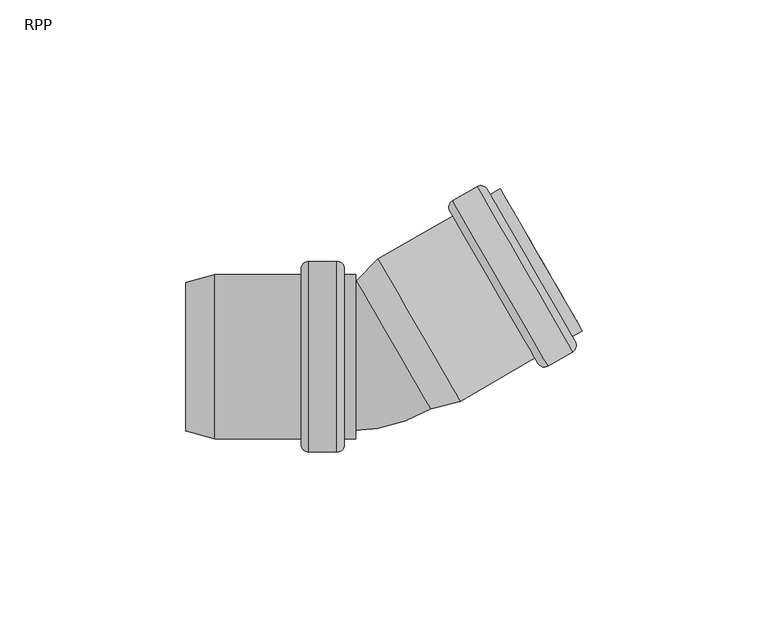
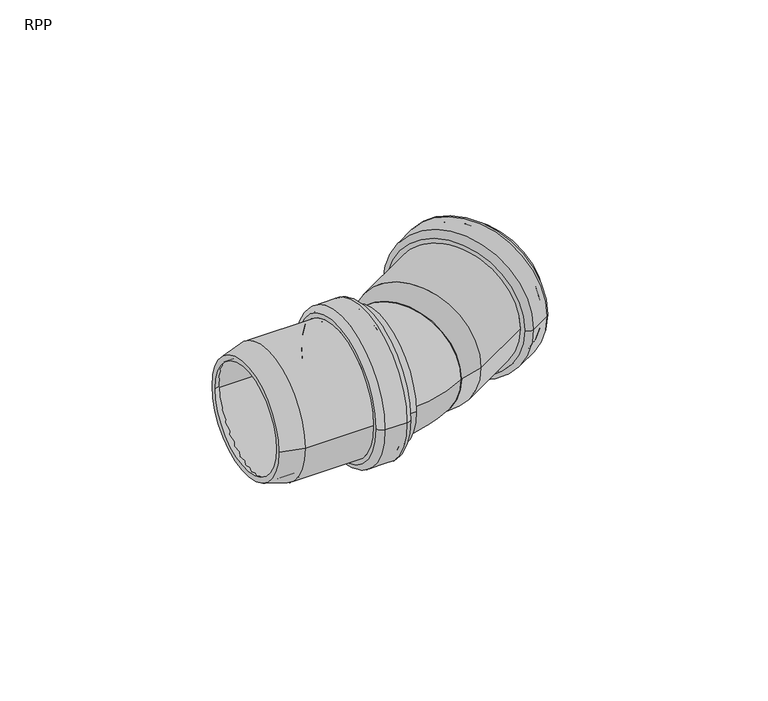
"""IFC4 building model written with IfcOpenShell, lengths in millimetres: pipe fitting geometry, RAUPIANO PLUS Bend : RPP."""

from ifc_helpers import new_model, si_unit, point, frame, origin, place, context, project, spatial, polyline, circle_curve, ellipse_curve, trimmed, source, transform, mapped, element, save
from ifc_brep_helpers import plane_surface, cylinder_surface, revolved_surface, advanced_brep


def rpp_faf4a86c(model_context):
    return source(origin(), model_context, "Body", "AdvancedBrep", [
        advanced_brep(
        [(-17.5307806, -20.3, 0.0), (-17.5307806, 20.3, 0.0), (-42.3564994, 20.3, 0.0), (-42.3564994, -20.3, 0.0), (-17.0307806, -23.9, 0.0), (-17.0307806, 23.9, 0.0), (-17.5307806, 23.4, 0.0), (-17.5307806, -23.4, 0.0), (-10.0307806, -23.9, 0.0), (-10.0307806, 23.9, 0.0), (-9.5307806, -23.4, 0.0), (-9.5307806, 23.4, 0.0), (-4.6307806, -20.3, 0.0), (-4.6307806, 20.3, 0.0), (-9.5307806, 20.3, 0.0), (-9.5307806, -20.3, 0.0), (-7.7307806, -22.1, 0.0), (-7.7307806, 22.1, 0.0), (-4.6307806, 22.1, 0.0), (-4.6307806, -22.1, 0.0), (-9.7307806, -25.7, 0.0), (-9.7307806, 25.7, 0.0), (-7.7307806, 23.7, 0.0), (-7.7307806, -23.7, 0.0), (-17.3307806, -25.7, 0.0), (-17.3307806, 25.7, 0.0), (-19.3307806, -23.7, 0.0), (-19.3307806, 23.7, 0.0), (-42.5934739, -22.1, 0.0), (-42.5934739, 22.1, 0.0), (-19.3307806, 22.1, 0.0), (-19.3307806, -22.1, 0.0), (-50.4307806, -20.0, 0.0), (-50.4307806, 20.0, 0.0), (-50.4307806, 18.1365029, 0.0), (-50.4307806, -18.1365029, 0.0)],
        [
            (0, 1, circle_curve(frame((-17.5307806, 0.0, 0.0), z_axis=(1.0, 0.0, 0.0), x_axis=(0.0, 1.0, 0.0)), 20.3)),
            (1, 2),
            (2, 3, circle_curve(frame((-42.3564994, 0.0, 0.0), z_axis=(-1.0, 0.0, 0.0), x_axis=(0.0, 1.0, 0.0)), 20.3)),
            (3, 0),
            (4, 5, circle_curve(frame((-17.0307806, 0.0, 0.0), z_axis=(1.0, 0.0, 0.0), x_axis=(0.0, 1.0, 0.0)), 23.9)),
            (5, 6, circle_curve(frame((-17.0307806, 23.4, 0.0), z_axis=(0.0, 0.0, 1.0), x_axis=(0.0, -1.0, 0.0)), 0.5)),
            (6, 7, circle_curve(frame((-17.5307806, 0.0, 0.0), z_axis=(-1.0, 0.0, 0.0), x_axis=(0.0, 1.0, 0.0)), 23.4)),
            (7, 4, circle_curve(frame((-17.0307806, -23.4, 0.0), z_axis=(0.0, 0.0, 1.0), x_axis=(0.0, 1.0, 0.0)), 0.5)),
            (8, 9, circle_curve(frame((-10.0307806, 0.0, 0.0), z_axis=(1.0, 0.0, 0.0), x_axis=(0.0, 1.0, 0.0)), 23.9)),
            (9, 5),
            (4, 8),
            (10, 11, circle_curve(frame((-9.5307806, 0.0, 0.0), z_axis=(1.0, 0.0, 0.0), x_axis=(0.0, 1.0, 0.0)), 23.4)),
            (11, 9, circle_curve(frame((-10.0307806, 23.4, 0.0), z_axis=(0.0, 0.0, 1.0), x_axis=(0.0, -1.0, 0.0)), 0.5)),
            (8, 10, circle_curve(frame((-10.0307806, -23.4, 0.0), z_axis=(0.0, 0.0, 1.0), x_axis=(0.0, 1.0, 0.0)), 0.5)),
            (12, 13, circle_curve(frame((-4.6307806, 0.0, 0.0), z_axis=(1.0, 0.0, 0.0), x_axis=(0.0, 1.0, 0.0)), 20.3)),
            (13, 14),
            (14, 15, circle_curve(frame((-9.5307806, 0.0, 0.0), z_axis=(-1.0, 0.0, 0.0), x_axis=(0.0, 1.0, 0.0)), 20.3)),
            (15, 12),
            (16, 17, circle_curve(frame((-7.7307806, 0.0, 0.0), z_axis=(1.0, 0.0, 0.0), x_axis=(0.0, 1.0, 0.0)), 22.1)),
            (17, 18),
            (18, 19, circle_curve(frame((-4.6307806, 0.0, 0.0), z_axis=(-1.0, 0.0, 0.0), x_axis=(0.0, 1.0, 0.0)), 22.1)),
            (19, 16),
            (20, 21, circle_curve(frame((-9.7307806, 0.0, 0.0), z_axis=(1.0, 0.0, 0.0), x_axis=(0.0, 1.0, 0.0)), 25.7)),
            (21, 22, circle_curve(frame((-9.7307806, 23.7, 0.0), z_axis=(0.0, 0.0, -1.0), x_axis=(0.0, -1.0, 0.0)), 2.0)),
            (22, 23, circle_curve(frame((-7.7307806, 0.0, 0.0), z_axis=(-1.0, 0.0, 0.0), x_axis=(0.0, 1.0, 0.0)), 23.7)),
            (23, 20, circle_curve(frame((-9.7307806, -23.7, 0.0), z_axis=(0.0, 0.0, -1.0), x_axis=(0.0, 1.0, 0.0)), 2.0)),
            (24, 25, circle_curve(frame((-17.3307806, 0.0, 0.0), z_axis=(1.0, 0.0, 0.0), x_axis=(0.0, 1.0, 0.0)), 25.7)),
            (25, 21),
            (20, 24),
            (26, 27, circle_curve(frame((-19.3307806, 0.0, 0.0), z_axis=(1.0, 0.0, 0.0), x_axis=(0.0, 1.0, 0.0)), 23.7)),
            (27, 25, circle_curve(frame((-17.3307806, 23.7, 0.0), z_axis=(0.0, 0.0, -1.0), x_axis=(0.0, -1.0, 0.0)), 2.0)),
            (24, 26, circle_curve(frame((-17.3307806, -23.7, 0.0), z_axis=(0.0, 0.0, -1.0), x_axis=(0.0, 1.0, 0.0)), 2.0)),
            (28, 29, circle_curve(frame((-42.5934739, 0.0, 0.0), z_axis=(1.0, 0.0, 0.0), x_axis=(0.0, 1.0, 0.0)), 22.1)),
            (29, 30),
            (30, 31, circle_curve(frame((-19.3307806, 0.0, 0.0), z_axis=(-1.0, 0.0, 0.0), x_axis=(0.0, 1.0, 0.0)), 22.1)),
            (31, 28),
            (32, 33, circle_curve(frame((-50.4307806, 0.0, 0.0), z_axis=(1.0, 0.0, 0.0), x_axis=(0.0, 1.0, 0.0)), 20.0)),
            (33, 29),
            (28, 32),
            (2, 34),
            (34, 35, circle_curve(frame((-50.4307806, 0.0, 0.0), z_axis=(-1.0, 0.0, 0.0), x_axis=(0.0, 1.0, 0.0)), 18.1365029)),
            (35, 3),
            (1, 0, circle_curve(frame((-17.5307806, 0.0, 0.0), z_axis=(1.0, 0.0, 0.0), x_axis=(0.0, -1.0, 0.0)), 20.3)),
            (3, 2, circle_curve(frame((-42.3564994, 0.0, 0.0), z_axis=(-1.0, 0.0, 0.0), x_axis=(0.0, -1.0, 0.0)), 20.3)),
            (6, 7, circle_curve(frame((-17.5307806, 0.0, 0.0), z_axis=(1.0, 0.0, 0.0), x_axis=(0.0, -1.0, 0.0)), 23.4)),
            (5, 4, circle_curve(frame((-17.0307806, 0.0, 0.0), z_axis=(1.0, 0.0, 0.0), x_axis=(0.0, -1.0, 0.0)), 23.9)),
            (9, 8, circle_curve(frame((-10.0307806, 0.0, 0.0), z_axis=(1.0, 0.0, 0.0), x_axis=(0.0, -1.0, 0.0)), 23.9)),
            (11, 10, circle_curve(frame((-9.5307806, 0.0, 0.0), z_axis=(1.0, 0.0, 0.0), x_axis=(0.0, -1.0, 0.0)), 23.4)),
            (14, 15, circle_curve(frame((-9.5307806, 0.0, 0.0), z_axis=(1.0, 0.0, 0.0), x_axis=(0.0, -1.0, 0.0)), 20.3)),
            (13, 12, circle_curve(frame((-4.6307806, 0.0, 0.0), z_axis=(1.0, 0.0, 0.0), x_axis=(0.0, -1.0, 0.0)), 20.3)),
            (18, 19, circle_curve(frame((-4.6307806, 0.0, 0.0), z_axis=(1.0, 0.0, 0.0), x_axis=(0.0, -1.0, 0.0)), 22.1)),
            (17, 16, circle_curve(frame((-7.7307806, 0.0, 0.0), z_axis=(1.0, 0.0, 0.0), x_axis=(0.0, -1.0, 0.0)), 22.1)),
            (22, 23, circle_curve(frame((-7.7307806, 0.0, 0.0), z_axis=(1.0, 0.0, 0.0), x_axis=(0.0, -1.0, 0.0)), 23.7)),
            (21, 20, circle_curve(frame((-9.7307806, 0.0, 0.0), z_axis=(1.0, 0.0, 0.0), x_axis=(0.0, -1.0, 0.0)), 25.7)),
            (25, 24, circle_curve(frame((-17.3307806, 0.0, 0.0), z_axis=(1.0, 0.0, 0.0), x_axis=(0.0, -1.0, 0.0)), 25.7)),
            (27, 26, circle_curve(frame((-19.3307806, 0.0, 0.0), z_axis=(1.0, 0.0, 0.0), x_axis=(0.0, -1.0, 0.0)), 23.7)),
            (30, 31, circle_curve(frame((-19.3307806, 0.0, 0.0), z_axis=(1.0, 0.0, 0.0), x_axis=(0.0, -1.0, 0.0)), 22.1)),
            (29, 28, circle_curve(frame((-42.5934739, 0.0, 0.0), z_axis=(1.0, 0.0, 0.0), x_axis=(0.0, -1.0, 0.0)), 22.1)),
            (33, 32, circle_curve(frame((-50.4307806, 0.0, 0.0), z_axis=(1.0, 0.0, 0.0), x_axis=(0.0, -1.0, 0.0)), 20.0)),
            (34, 35, circle_curve(frame((-50.4307806, 0.0, 0.0), z_axis=(1.0, 0.0, 0.0), x_axis=(0.0, -1.0, 0.0)), 18.1365029)),
        ],
        [
            revolved_surface(polyline([(-42.3564994, 20.3, 0.0), (-17.5307806, 20.3, 0.0)]), (-50.4307806, 0.0, 0.0), (-1.0, 0.0, 0.0)),
            revolved_surface(trimmed(ellipse_curve(frame((-17.0307806, 23.4, 0.0), z_axis=(0.0, 0.0, -1.0), x_axis=(0.0, -1.0, 0.0)), 0.5, 0.5), [point((-17.5307806, 23.4, 0.0))], [point((-17.0307806, 23.9, 0.0))], True, "CARTESIAN"), (-50.4307806, 0.0, 0.0), (-1.0, 0.0, 0.0)),
            revolved_surface(polyline([(-17.0307806, 23.9, 0.0), (-10.0307806, 23.9, 0.0)]), (-50.4307806, 0.0, 0.0), (-1.0, 0.0, 0.0)),
            revolved_surface(trimmed(ellipse_curve(frame((-10.0307806, 23.4, 0.0), z_axis=(0.0, 0.0, -1.0), x_axis=(0.0, -1.0, 0.0)), 0.5, 0.5), [point((-10.0307806, 23.9, 0.0))], [point((-9.5307806, 23.4, 0.0))], True, "CARTESIAN"), (-50.4307806, 0.0, 0.0), (-1.0, 0.0, 0.0)),
            revolved_surface(polyline([(-9.5307806, 20.3, 0.0), (-4.630780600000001, 20.3, 0.0)]), (-50.4307806, 0.0, 0.0), (-1.0, 0.0, 0.0)),
            cylinder_surface(frame((-50.4307806, 0.0, 0.0), z_axis=(-1.0, 0.0, 0.0), x_axis=(0.0, 1.0, 0.0)), 22.1),
            revolved_surface(trimmed(ellipse_curve(frame((-9.7307806, 23.7, 0.0), z_axis=(0.0, 0.0, 1.0), x_axis=(0.0, -1.0, 0.0)), 2.0, 2.0), [point((-7.7307806, 23.7, 0.0))], [point((-9.7307806, 25.7, 0.0))], True, "CARTESIAN"), (-50.4307806, 0.0, 0.0), (-1.0, 0.0, 0.0)),
            cylinder_surface(frame((-50.4307806, 0.0, 0.0), z_axis=(-1.0, 0.0, 0.0), x_axis=(0.0, 1.0, 0.0)), 25.7),
            revolved_surface(trimmed(ellipse_curve(frame((-17.3307806, 23.7, 0.0), z_axis=(0.0, 0.0, 1.0), x_axis=(0.0, -1.0, 0.0)), 2.0, 2.0), [point((-17.3307806, 25.7, 0.0))], [point((-19.3307806, 23.7, 0.0))], True, "CARTESIAN"), (-50.4307806, 0.0, 0.0), (-1.0, 0.0, 0.0)),
            revolved_surface(polyline([(-42.5934739, 22.1, 0.0), (-50.4307806, 20.0, 0.0)]), (-50.4307806, 0.0, 0.0), (-1.0, 0.0, 0.0)),
            revolved_surface(polyline([(-50.4307806, 18.1365029, 0.0), (-42.3564994, 20.3, 0.0)]), (-50.4307806, 0.0, 0.0), (-1.0, 0.0, 0.0)),
            revolved_surface(polyline([(-42.3564994, -20.3, 0.0), (-17.5307806, -20.3, 0.0)]), (-50.4307806, 0.0, 0.0), (-1.0, 0.0, 0.0)),
            plane_surface(frame((-17.5307806, 0.0, 0.0), z_axis=(1.0, 0.0, 0.0), x_axis=(0.0, -1.0, 0.0))),
            revolved_surface(trimmed(ellipse_curve(frame((-17.0307806, -23.4, 0.0), z_axis=(0.0, 0.0, 1.0), x_axis=(0.0, 1.0, 0.0)), 0.5, 0.5), [point((-17.5307806, -23.4, 0.0))], [point((-17.0307806, -23.9, 0.0))], True, "CARTESIAN"), (-50.4307806, 0.0, 0.0), (-1.0, 0.0, 0.0)),
            revolved_surface(polyline([(-17.0307806, -23.9, 0.0), (-10.0307806, -23.9, 0.0)]), (-50.4307806, 0.0, 0.0), (-1.0, 0.0, 0.0)),
            revolved_surface(trimmed(ellipse_curve(frame((-10.0307806, -23.4, 0.0), z_axis=(0.0, 0.0, 1.0), x_axis=(0.0, 1.0, 0.0)), 0.5, 0.5), [point((-10.0307806, -23.9, 0.0))], [point((-9.5307806, -23.4, 0.0))], True, "CARTESIAN"), (-50.4307806, 0.0, 0.0), (-1.0, 0.0, 0.0)),
            plane_surface(frame((-9.5307806, 0.0, 0.0), z_axis=(-1.0, 0.0, 0.0), x_axis=(0.0, -1.0, 0.0))),
            revolved_surface(polyline([(-9.5307806, -20.3, 0.0), (-4.630780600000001, -20.3, 0.0)]), (-50.4307806, 0.0, 0.0), (-1.0, 0.0, 0.0)),
            plane_surface(frame((-4.6307806, 0.0, 0.0), z_axis=(1.0, 0.0, 0.0), x_axis=(0.0, -1.0, 0.0))),
            cylinder_surface(frame((-50.4307806, 0.0, 0.0), z_axis=(-1.0, 0.0, 0.0), x_axis=(0.0, -1.0, 0.0)), 22.1),
            plane_surface(frame((-7.7307806, 0.0, 0.0), z_axis=(1.0, 0.0, 0.0), x_axis=(0.0, -1.0, 0.0))),
            revolved_surface(trimmed(ellipse_curve(frame((-9.7307806, -23.7, 0.0), z_axis=(0.0, 0.0, -1.0), x_axis=(0.0, 1.0, 0.0)), 2.0, 2.0), [point((-7.7307806, -23.7, 0.0))], [point((-9.7307806, -25.7, 0.0))], True, "CARTESIAN"), (-50.4307806, 0.0, 0.0), (-1.0, 0.0, 0.0)),
            cylinder_surface(frame((-50.4307806, 0.0, 0.0), z_axis=(-1.0, 0.0, 0.0), x_axis=(0.0, -1.0, 0.0)), 25.7),
            revolved_surface(trimmed(ellipse_curve(frame((-17.3307806, -23.7, 0.0), z_axis=(0.0, 0.0, -1.0), x_axis=(0.0, 1.0, 0.0)), 2.0, 2.0), [point((-17.3307806, -25.7, 0.0))], [point((-19.3307806, -23.7, 0.0))], True, "CARTESIAN"), (-50.4307806, 0.0, 0.0), (-1.0, 0.0, 0.0)),
            plane_surface(frame((-19.3307806, 0.0, 0.0), z_axis=(-1.0, 0.0, 0.0), x_axis=(0.0, -1.0, 0.0))),
            revolved_surface(polyline([(-42.5934739, -22.1, 0.0), (-50.4307806, -20.0, 0.0)]), (-50.4307806, 0.0, 0.0), (-1.0, 0.0, 0.0)),
            plane_surface(frame((-50.4307806, 0.0, 0.0), z_axis=(-1.0, 0.0, 0.0), x_axis=(0.0, -1.0, 0.0))),
            revolved_surface(polyline([(-50.4307806, -18.1365029, 0.0), (-42.3564994, -20.3, 0.0)]), (-50.4307806, 0.0, 0.0), (-1.0, 0.0, 0.0)),
        ],
        [
            (0, [[1, 2, 3, 4]]),
            (1, [[5, 6, 7, 8]]),
            (2, [[9, 10, -5, 11]]),
            (3, [[12, 13, -9, 14]]),
            (4, [[15, 16, 17, 18]]),
            (5, [[19, 20, 21, 22]]),
            (6, [[23, 24, 25, 26]]),
            (7, [[27, 28, -23, 29]]),
            (8, [[30, 31, -27, 32]]),
            (5, [[33, 34, 35, 36]]),
            (9, [[37, 38, -33, 39]]),
            (10, [[-3, 40, 41, 42]]),
            (11, [[43, -4, 44, -2]]),
            (12, [[45, -7], [-43, -1]]),
            (13, [[46, -8, -45, -6]]),
            (14, [[47, -11, -46, -10]]),
            (15, [[48, -14, -47, -13]]),
            (16, [[-48, -12], [49, -17]]),
            (17, [[50, -18, -49, -16]]),
            (18, [[51, -21], [-50, -15]]),
            (19, [[52, -22, -51, -20]]),
            (20, [[53, -25], [-52, -19]]),
            (21, [[54, -26, -53, -24]]),
            (22, [[55, -29, -54, -28]]),
            (23, [[56, -32, -55, -31]]),
            (24, [[-56, -30], [57, -35]]),
            (19, [[58, -36, -57, -34]]),
            (25, [[59, -39, -58, -38]]),
            (26, [[-59, -37], [60, -41]]),
            (27, [[-44, -42, -60, -40]]),
        ],
    ),
        advanced_brep(
        [(14.6374708, -12.4912819, 0.0), (-3.4990321, 18.9220625, 0.0), (2.411752, 24.8328466, 0.0), (22.711752, -10.3277848, 0.0), (23.4065261, -12.0051178, 0.0), (1.3065261, 26.2732051, 0.0), (-4.4307806, 20.5358984, 0.0), (15.5692194, -14.1051178, 0.0), (43.5526094, -0.3737711, 0.0), (21.4526094, 37.9045517, 0.0), (53.6664533, 1.3085374, 0.0), (27.9664533, 45.8222432, 0.0), (21.3846602, 42.0222432, 0.0), (47.0846602, -2.4914626, 0.0), (56.2831829, 6.9762289, 0.0), (34.1831829, 45.2545517, 0.0), (31.4985041, 43.7045517, 0.0), (53.5985041, 5.4262289, 0.0), (51.1396584, 6.0850746, 0.0), (30.8396584, 41.245706, 0.0), (35.0831829, 43.695706, 0.0), (55.3831829, 8.5350746, 0.0), (46.4444679, -0.7826168, 0.0), (22.5444679, 40.6133975, 0.0), (28.6066457, 44.1133975, 0.0), (52.5066457, 2.7173832, 0.0), (23.9114552, 37.245706, 0.0), (44.2114552, 2.0850746, 0.0), (20.6526094, 39.2901924, 0.0), (44.3526094, -1.7594118, 0.0), (54.3985041, 4.0405882, 0.0), (30.6985041, 45.0901924, 0.0), (29.2896584, 43.9303848, 0.0), (52.6896584, 3.4003959, 0.0), (45.7614552, -0.5996041, 0.0), (22.3614552, 39.9303848, 0.0)],
        [
            (0, 1, circle_curve(frame((5.5692194, 3.2153903, 0.0), z_axis=(-0.8660254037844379, -0.5000000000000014, 0.0), x_axis=(-0.5000000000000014, 0.8660254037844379, 0.0)), 18.1365029)),
            (1, 2),
            (2, 3, circle_curve(frame((12.561752, 7.2525309, 0.0), z_axis=(0.8660254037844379, 0.5000000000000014, 0.0), x_axis=(-0.5000000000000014, 0.8660254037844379, 0.0)), 20.3)),
            (3, 0),
            (4, 5, circle_curve(frame((12.3565261, 7.1340437, 0.0), z_axis=(-0.8660254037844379, -0.5000000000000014, 0.0), x_axis=(-0.5000000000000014, 0.8660254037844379, 0.0)), 22.1)),
            (5, 6),
            (6, 7, circle_curve(frame((5.5692194, 3.2153903, 0.0), z_axis=(0.8660254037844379, 0.5000000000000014, 0.0), x_axis=(-0.5000000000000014, 0.8660254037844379, 0.0)), 20.0)),
            (7, 4),
            (8, 9, circle_curve(frame((32.5026094, 18.7653903, 0.0), z_axis=(-0.8660254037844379, -0.5000000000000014, 0.0), x_axis=(-0.5000000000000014, 0.8660254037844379, 0.0)), 22.1)),
            (9, 5),
            (4, 8),
            (10, 11, circle_curve(frame((40.8164533, 23.5653903, 0.0), z_axis=(-0.8660254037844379, -0.5000000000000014, 0.0), x_axis=(-0.5000000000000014, 0.8660254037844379, 0.0)), 25.7)),
            (11, 12),
            (12, 13, circle_curve(frame((34.2346602, 19.7653903, 0.0), z_axis=(0.8660254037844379, 0.5000000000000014, 0.0), x_axis=(-0.5000000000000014, 0.8660254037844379, 0.0)), 25.7)),
            (13, 10),
            (14, 15, circle_curve(frame((45.2331829, 26.1153903, 0.0), z_axis=(-0.8660254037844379, -0.5000000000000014, 0.0), x_axis=(-0.5000000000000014, 0.8660254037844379, 0.0)), 22.1)),
            (15, 16),
            (16, 17, circle_curve(frame((42.5485041, 24.5653903, 0.0), z_axis=(0.8660254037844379, 0.5000000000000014, 0.0), x_axis=(-0.5000000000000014, 0.8660254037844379, 0.0)), 22.1)),
            (17, 14),
            (18, 19, circle_curve(frame((40.9896584, 23.6653903, 0.0), z_axis=(-0.8660254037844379, -0.5000000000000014, 0.0), x_axis=(-0.5000000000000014, 0.8660254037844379, 0.0)), 20.3)),
            (19, 20),
            (20, 21, circle_curve(frame((45.2331829, 26.1153903, 0.0), z_axis=(0.8660254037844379, 0.5000000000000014, 0.0), x_axis=(-0.5000000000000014, 0.8660254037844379, 0.0)), 20.3)),
            (21, 18),
            (22, 23, circle_curve(frame((34.4944679, 19.9153903, 0.0), z_axis=(-0.8660254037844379, -0.5000000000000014, 0.0), x_axis=(-0.5000000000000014, 0.8660254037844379, 0.0)), 23.9)),
            (23, 24),
            (24, 25, circle_curve(frame((40.5566457, 23.4153903, 0.0), z_axis=(0.8660254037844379, 0.5000000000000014, 0.0), x_axis=(-0.5000000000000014, 0.8660254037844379, 0.0)), 23.9)),
            (25, 22),
            (2, 26),
            (26, 27, circle_curve(frame((34.0614552, 19.6653903, 0.0), z_axis=(0.8660254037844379, 0.5000000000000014, 0.0), x_axis=(-0.5000000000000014, 0.8660254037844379, 0.0)), 20.3)),
            (27, 3),
            (1, 0, circle_curve(frame((5.5692194, 3.2153903, 0.0), z_axis=(-0.8660254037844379, -0.5000000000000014, 0.0), x_axis=(0.5000000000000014, -0.8660254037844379, 0.0)), 18.1365029)),
            (3, 2, circle_curve(frame((12.561752, 7.2525309, 0.0), z_axis=(0.8660254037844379, 0.5000000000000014, 0.0), x_axis=(0.5000000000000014, -0.8660254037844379, 0.0)), 20.3)),
            (6, 7, circle_curve(frame((5.5692194, 3.2153903, 0.0), z_axis=(-0.8660254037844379, -0.5000000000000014, 0.0), x_axis=(0.5000000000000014, -0.8660254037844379, 0.0)), 20.0)),
            (5, 4, circle_curve(frame((12.3565261, 7.1340437, 0.0), z_axis=(-0.8660254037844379, -0.5000000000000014, 0.0), x_axis=(0.5000000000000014, -0.8660254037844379, 0.0)), 22.1)),
            (9, 8, circle_curve(frame((32.5026094, 18.7653903, 0.0), z_axis=(-0.8660254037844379, -0.5000000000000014, 0.0), x_axis=(0.5000000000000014, -0.8660254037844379, 0.0)), 22.1)),
            (28, 29, circle_curve(frame((32.5026094, 18.7653903, 0.0), z_axis=(-0.8660254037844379, -0.5000000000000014, 0.0), x_axis=(0.5000000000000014, -0.8660254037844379, 0.0)), 23.7)),
            (29, 28, circle_curve(frame((32.5026094, 18.7653903, 0.0), z_axis=(-0.8660254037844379, -0.5000000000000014, 0.0), x_axis=(-0.5000000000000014, 0.8660254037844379, 0.0)), 23.7)),
            (11, 10, circle_curve(frame((40.8164533, 23.5653903, 0.0), z_axis=(-0.8660254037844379, -0.5000000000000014, 0.0), x_axis=(0.5000000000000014, -0.8660254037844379, 0.0)), 25.7)),
            (13, 12, circle_curve(frame((34.2346602, 19.7653903, 0.0), z_axis=(0.8660254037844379, 0.5000000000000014, 0.0), x_axis=(0.5000000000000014, -0.8660254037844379, 0.0)), 25.7)),
            (30, 31, circle_curve(frame((42.5485041, 24.5653903, 0.0), z_axis=(0.8660254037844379, 0.5000000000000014, 0.0), x_axis=(0.5000000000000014, -0.8660254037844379, 0.0)), 23.7)),
            (31, 30, circle_curve(frame((42.5485041, 24.5653903, 0.0), z_axis=(0.8660254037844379, 0.5000000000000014, 0.0), x_axis=(-0.5000000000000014, 0.8660254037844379, 0.0)), 23.7)),
            (16, 17, circle_curve(frame((42.5485041, 24.5653903, 0.0), z_axis=(-0.8660254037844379, -0.5000000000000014, 0.0), x_axis=(0.5000000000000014, -0.8660254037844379, 0.0)), 22.1)),
            (15, 14, circle_curve(frame((45.2331829, 26.1153903, 0.0), z_axis=(-0.8660254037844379, -0.5000000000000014, 0.0), x_axis=(0.5000000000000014, -0.8660254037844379, 0.0)), 22.1)),
            (20, 21, circle_curve(frame((45.2331829, 26.1153903, 0.0), z_axis=(-0.8660254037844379, -0.5000000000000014, 0.0), x_axis=(0.5000000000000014, -0.8660254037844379, 0.0)), 20.3)),
            (19, 18, circle_curve(frame((40.9896584, 23.6653903, 0.0), z_axis=(-0.8660254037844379, -0.5000000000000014, 0.0), x_axis=(0.5000000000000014, -0.8660254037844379, 0.0)), 20.3)),
            (32, 33, circle_curve(frame((40.9896584, 23.6653903, 0.0), z_axis=(-0.8660254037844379, -0.5000000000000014, 0.0), x_axis=(0.5000000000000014, -0.8660254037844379, 0.0)), 23.4)),
            (33, 32, circle_curve(frame((40.9896584, 23.6653903, 0.0), z_axis=(-0.8660254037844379, -0.5000000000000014, 0.0), x_axis=(-0.5000000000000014, 0.8660254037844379, 0.0)), 23.4)),
            (23, 22, circle_curve(frame((34.4944679, 19.9153903, 0.0), z_axis=(-0.8660254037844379, -0.5000000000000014, 0.0), x_axis=(0.5000000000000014, -0.8660254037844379, 0.0)), 23.9)),
            (25, 24, circle_curve(frame((40.5566457, 23.4153903, 0.0), z_axis=(0.8660254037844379, 0.5000000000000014, 0.0), x_axis=(0.5000000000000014, -0.8660254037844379, 0.0)), 23.9)),
            (34, 35, circle_curve(frame((34.0614552, 19.6653903, 0.0), z_axis=(0.8660254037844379, 0.5000000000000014, 0.0), x_axis=(0.5000000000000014, -0.8660254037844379, 0.0)), 23.4)),
            (35, 34, circle_curve(frame((34.0614552, 19.6653903, 0.0), z_axis=(0.8660254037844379, 0.5000000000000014, 0.0), x_axis=(-0.5000000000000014, 0.8660254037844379, 0.0)), 23.4)),
            (26, 27, circle_curve(frame((34.0614552, 19.6653903, 0.0), z_axis=(-0.8660254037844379, -0.5000000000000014, 0.0), x_axis=(0.5000000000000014, -0.8660254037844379, 0.0)), 20.3)),
            (12, 28, circle_curve(frame((22.3846602, 40.2901924, 0.0), z_axis=(0.0, 0.0, 1.0000000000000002), x_axis=(0.5000000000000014, -0.8660254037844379, 0.0)), 2.0)),
            (29, 13, circle_curve(frame((46.0846602, -0.7594118, 0.0), z_axis=(0.0, 0.0, 1.0000000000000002), x_axis=(-0.5000000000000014, 0.8660254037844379, 0.0)), 2.0)),
            (31, 11, circle_curve(frame((28.9664533, 44.0901924, 0.0), z_axis=(0.0, 0.0, 1.0000000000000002), x_axis=(0.5000000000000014, -0.8660254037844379, 0.0)), 2.0)),
            (10, 30, circle_curve(frame((52.6664533, 3.0405882, 0.0), z_axis=(0.0, 0.0, 1.0000000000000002), x_axis=(-0.5000000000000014, 0.8660254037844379, 0.0)), 2.0)),
            (24, 32, circle_curve(frame((28.8566457, 43.6803848, 0.0), z_axis=(0.0, 0.0, -1.0000000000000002), x_axis=(0.5000000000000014, -0.8660254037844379, 0.0)), 0.5)),
            (33, 25, circle_curve(frame((52.2566457, 3.1503959, 0.0), z_axis=(0.0, 0.0, -1.0000000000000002), x_axis=(-0.5000000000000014, 0.8660254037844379, 0.0)), 0.5)),
            (35, 23, circle_curve(frame((22.7944679, 40.1803848, 0.0), z_axis=(0.0, 0.0, -1.0000000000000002), x_axis=(0.5000000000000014, -0.8660254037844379, 0.0)), 0.5)),
            (22, 34, circle_curve(frame((46.1944679, -0.3496041, 0.0), z_axis=(0.0, 0.0, -1.0000000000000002), x_axis=(-0.5000000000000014, 0.8660254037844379, 0.0)), 0.5)),
        ],
        [
            revolved_surface(polyline([(2.411752, 24.8328466, 0.0), (-3.4990321, 18.9220625, 0.0)]), (5.5692194, 3.2153903, 0.0), (0.8660254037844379, 0.5000000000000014, 0.0)),
            revolved_surface(polyline([(-4.4307806, 20.5358984, 0.0), (1.3065261, 26.2732051, 0.0)]), (5.5692194, 3.2153903, 0.0), (0.8660254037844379, 0.5000000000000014, 0.0)),
            cylinder_surface(frame((5.5692194, 3.2153903, 0.0), z_axis=(0.8660254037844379, 0.5000000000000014, 0.0), x_axis=(-0.5000000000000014, 0.8660254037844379, 0.0)), 22.1),
            cylinder_surface(frame((5.5692194, 3.2153903, 0.0), z_axis=(0.8660254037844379, 0.5000000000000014, 0.0), x_axis=(-0.5000000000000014, 0.8660254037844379, 0.0)), 25.7),
            revolved_surface(polyline([(35.083182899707, 43.69570600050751, 0.0), (30.839658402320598, 41.2457059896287, 0.0)]), (5.5692194, 3.2153903, 0.0), (0.8660254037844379, 0.5000000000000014, 0.0)),
            revolved_surface(polyline([(28.606645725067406, 44.11339745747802, 0.0), (22.544467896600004, 40.61339745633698, 0.0)]), (5.5692194, 3.2153903, 0.0), (0.8660254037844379, 0.5000000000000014, 0.0)),
            revolved_surface(polyline([(23.911455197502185, 37.245706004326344, 0.0), (2.411752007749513, 24.83284658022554, 0.0)]), (5.5692194, 3.2153903, 0.0), (0.8660254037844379, 0.5000000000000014, 0.0)),
            revolved_surface(polyline([(22.711752, -10.3277848, 0.0), (14.6374708, -12.4912819, 0.0)]), (5.5692194, 3.2153903, 0.0), (0.8660254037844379, 0.5000000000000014, 0.0)),
            plane_surface(frame((5.5692194, 3.2153903, 0.0), z_axis=(-0.8660254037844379, -0.5000000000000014, 0.0), x_axis=(0.5000000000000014, -0.8660254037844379, 0.0))),
            revolved_surface(polyline([(15.5692194, -14.1051178, 0.0), (23.4065261, -12.0051178, 0.0)]), (5.5692194, 3.2153903, 0.0), (0.8660254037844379, 0.5000000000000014, 0.0)),
            cylinder_surface(frame((5.5692194, 3.2153903, 0.0), z_axis=(0.8660254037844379, 0.5000000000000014, 0.0), x_axis=(0.5000000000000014, -0.8660254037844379, 0.0)), 22.1),
            plane_surface(frame((32.5026094, 18.7653903, 0.0), z_axis=(-0.8660254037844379, -0.5000000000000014, 0.0), x_axis=(0.5000000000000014, -0.8660254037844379, 0.0))),
            cylinder_surface(frame((5.5692194, 3.2153903, 0.0), z_axis=(0.8660254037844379, 0.5000000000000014, 0.0), x_axis=(0.5000000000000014, -0.8660254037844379, 0.0)), 25.7),
            plane_surface(frame((42.5485041, 24.5653903, 0.0), z_axis=(0.8660254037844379, 0.5000000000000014, 0.0), x_axis=(0.5000000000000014, -0.8660254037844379, 0.0))),
            plane_surface(frame((45.2331829, 26.1153903, 0.0), z_axis=(0.8660254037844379, 0.5000000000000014, 0.0), x_axis=(0.5000000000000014, -0.8660254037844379, 0.0))),
            revolved_surface(polyline([(55.38318289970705, 8.535074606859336, 0.0), (51.139658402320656, 6.085074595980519, 0.0)]), (5.5692194, 3.2153903, 0.0), (0.8660254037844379, 0.5000000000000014, 0.0)),
            plane_surface(frame((40.9896584, 23.6653903, 0.0), z_axis=(-0.8660254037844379, -0.5000000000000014, 0.0), x_axis=(0.5000000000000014, -0.8660254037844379, 0.0))),
            revolved_surface(polyline([(52.50664572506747, 2.7173831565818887, 0.0), (46.444467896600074, -0.7826168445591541, 0.0)]), (5.5692194, 3.2153903, 0.0), (0.8660254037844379, 0.5000000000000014, 0.0)),
            plane_surface(frame((34.0614552, 19.6653903, 0.0), z_axis=(0.8660254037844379, 0.5000000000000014, 0.0), x_axis=(0.5000000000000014, -0.8660254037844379, 0.0))),
            revolved_surface(polyline([(44.21145519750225, 2.085074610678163, 0.0), (22.71175200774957, -10.327784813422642, 0.0)]), (5.5692194, 3.2153903, 0.0), (0.8660254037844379, 0.5000000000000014, 0.0)),
            revolved_surface(trimmed(ellipse_curve(frame((22.3846602, 40.2901924, 0.0), z_axis=(0.0, 0.0, -1.0000000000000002), x_axis=(0.5000000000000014, -0.8660254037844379, 0.0)), 2.0, 2.0), [point((20.6526094, 39.2901924, 0.0))], [point((21.3846602, 42.0222432, 0.0))], True, "CARTESIAN"), (5.5692194, 3.2153903, 0.0), (0.8660254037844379, 0.5000000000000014, 0.0)),
            revolved_surface(trimmed(ellipse_curve(frame((28.9664533, 44.0901924, 0.0), z_axis=(0.0, 0.0, -1.0000000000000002), x_axis=(0.5000000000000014, -0.8660254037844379, 0.0)), 2.0, 2.0), [point((27.9664533, 45.8222432, 0.0))], [point((30.6985041, 45.0901924, 0.0))], True, "CARTESIAN"), (5.5692194, 3.2153903, 0.0), (0.8660254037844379, 0.5000000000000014, 0.0)),
            revolved_surface(trimmed(ellipse_curve(frame((28.8566457, 43.6803848, 0.0), z_axis=(0.0, 0.0, 1.0000000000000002), x_axis=(0.5000000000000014, -0.8660254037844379, 0.0)), 0.5, 0.5), [point((29.2896584, 43.9303848, 0.0))], [point((28.6066457, 44.1133975, 0.0))], True, "CARTESIAN"), (5.5692194, 3.2153903, 0.0), (0.8660254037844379, 0.5000000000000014, 0.0)),
            revolved_surface(trimmed(ellipse_curve(frame((22.7944679, 40.1803848, 0.0), z_axis=(0.0, 0.0, 1.0000000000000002), x_axis=(0.5000000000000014, -0.8660254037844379, 0.0)), 0.5, 0.5), [point((22.5444679, 40.6133975, 0.0))], [point((22.3614552, 39.9303848, 0.0))], True, "CARTESIAN"), (5.5692194, 3.2153903, 0.0), (0.8660254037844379, 0.5000000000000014, 0.0)),
            revolved_surface(trimmed(ellipse_curve(frame((46.0846602, -0.7594118, 0.0), z_axis=(0.0, 0.0, 1.0000000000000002), x_axis=(-0.5000000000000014, 0.8660254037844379, 0.0)), 2.0, 2.0), [point((44.3526094, -1.7594118, 0.0))], [point((47.0846602, -2.4914626, 0.0))], True, "CARTESIAN"), (5.5692194, 3.2153903, 0.0), (0.8660254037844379, 0.5000000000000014, 0.0)),
            revolved_surface(trimmed(ellipse_curve(frame((52.6664533, 3.0405882, 0.0), z_axis=(0.0, 0.0, 1.0000000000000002), x_axis=(-0.5000000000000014, 0.8660254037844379, 0.0)), 2.0, 2.0), [point((53.6664533, 1.3085374, 0.0))], [point((54.3985041, 4.0405882, 0.0))], True, "CARTESIAN"), (5.5692194, 3.2153903, 0.0), (0.8660254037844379, 0.5000000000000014, 0.0)),
            revolved_surface(trimmed(ellipse_curve(frame((52.2566457, 3.1503959, 0.0), z_axis=(0.0, 0.0, -1.0000000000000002), x_axis=(-0.5000000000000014, 0.8660254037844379, 0.0)), 0.5, 0.5), [point((52.6896584, 3.4003959, 0.0))], [point((52.5066457, 2.7173832, 0.0))], True, "CARTESIAN"), (5.5692194, 3.2153903, 0.0), (0.8660254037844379, 0.5000000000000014, 0.0)),
            revolved_surface(trimmed(ellipse_curve(frame((46.1944679, -0.3496041, 0.0), z_axis=(0.0, 0.0, -1.0000000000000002), x_axis=(-0.5000000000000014, 0.8660254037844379, 0.0)), 0.5, 0.5), [point((46.4444679, -0.7826168, 0.0))], [point((45.7614552, -0.5996041, 0.0))], True, "CARTESIAN"), (5.5692194, 3.2153903, 0.0), (0.8660254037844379, 0.5000000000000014, 0.0)),
        ],
        [
            (0, [[1, 2, 3, 4]]),
            (1, [[5, 6, 7, 8]]),
            (2, [[9, 10, -5, 11]]),
            (3, [[12, 13, 14, 15]]),
            (2, [[16, 17, 18, 19]]),
            (4, [[20, 21, 22, 23]]),
            (5, [[24, 25, 26, 27]]),
            (6, [[-3, 28, 29, 30]]),
            (7, [[31, -4, 32, -2]]),
            (8, [[33, -7], [-31, -1]]),
            (9, [[34, -8, -33, -6]]),
            (10, [[35, -11, -34, -10]]),
            (11, [[36, 37], [-35, -9]]),
            (12, [[38, -15, 39, -13]]),
            (13, [[40, 41], [42, -18]]),
            (10, [[43, -19, -42, -17]]),
            (14, [[-43, -16], [44, -22]]),
            (15, [[45, -23, -44, -21]]),
            (16, [[46, 47], [-45, -20]]),
            (17, [[48, -27, 49, -25]]),
            (18, [[50, 51], [52, -29]]),
            (19, [[-32, -30, -52, -28]]),
            (20, [[-14, 53, -37, 54]]),
            (21, [[-41, 55, -12, 56]]),
            (22, [[-26, 57, -47, 58]]),
            (23, [[-51, 59, -24, 60]]),
            (24, [[-39, -54, -36, -53]]),
            (25, [[-40, -56, -38, -55]]),
            (26, [[-49, -58, -46, -57]]),
            (27, [[-50, -60, -48, -59]]),
        ],
    ),
        advanced_brep(
        [(-6.4307806, 18.2, 0.0), (-6.4307806, -18.2, 0.0), (-50.4307806, -18.2, 0.0), (-50.4307806, 18.2, 0.0), (-46.6987298, 20.0, 0.0), (-46.6987298, -20.0, 0.0), (-6.4307806, -20.0, 0.0), (-6.4307806, 20.0, 0.0), (-50.4307806, 19.0, 0.0), (-50.4307806, -19.0, 0.0)],
        [
            (0, 1, circle_curve(frame((-6.4307806, 0.0, 0.0), z_axis=(1.0, 0.0, 0.0), x_axis=(0.0, -1.0, 0.0)), 18.2)),
            (1, 2),
            (2, 3, circle_curve(frame((-50.4307806, 0.0, 0.0), z_axis=(-1.0, 0.0, 0.0), x_axis=(0.0, -1.0, 0.0)), 18.2)),
            (3, 0),
            (4, 5, circle_curve(frame((-46.6987298, 0.0, 0.0), z_axis=(1.0, 0.0, 0.0), x_axis=(0.0, -1.0, 0.0)), 20.0)),
            (5, 6),
            (6, 7, circle_curve(frame((-6.4307806, 0.0, 0.0), z_axis=(-1.0, 0.0, 0.0), x_axis=(0.0, -1.0, 0.0)), 20.0)),
            (7, 4),
            (8, 9, circle_curve(frame((-50.4307806, 0.0, 0.0), z_axis=(1.0, 0.0, 0.0), x_axis=(0.0, -1.0, 0.0)), 19.0)),
            (9, 5),
            (4, 8),
            (1, 0, circle_curve(frame((-6.4307806, 0.0, 0.0), z_axis=(1.0, 0.0, 0.0), x_axis=(0.0, 1.0, 0.0)), 18.2)),
            (3, 2, circle_curve(frame((-50.4307806, 0.0, 0.0), z_axis=(-1.0, 0.0, 0.0), x_axis=(0.0, 1.0, 0.0)), 18.2)),
            (6, 7, circle_curve(frame((-6.4307806, 0.0, 0.0), z_axis=(1.0, 0.0, 0.0), x_axis=(0.0, 1.0, 0.0)), 20.0)),
            (5, 4, circle_curve(frame((-46.6987298, 0.0, 0.0), z_axis=(1.0, 0.0, 0.0), x_axis=(0.0, 1.0, 0.0)), 20.0)),
            (9, 8, circle_curve(frame((-50.4307806, 0.0, 0.0), z_axis=(1.0, 0.0, 0.0), x_axis=(0.0, 1.0, 0.0)), 19.0)),
        ],
        [
            revolved_surface(polyline([(-50.4307806, -18.2, 0.0), (-6.4307806, -18.2, 0.0)]), (-6.4307806, 0.0, 0.0), (-1.0, 0.0, 0.0)),
            cylinder_surface(frame((-6.4307806, 0.0, 0.0), z_axis=(-1.0, 0.0, 0.0), x_axis=(0.0, -1.0, 0.0)), 20.0),
            revolved_surface(polyline([(-46.6987298, -20.0, 0.0), (-50.4307806, -19.0, 0.0)]), (-6.4307806, 0.0, 0.0), (-1.0, 0.0, 0.0)),
            revolved_surface(polyline([(-50.4307806, 18.2, 0.0), (-6.4307806, 18.2, 0.0)]), (-6.4307806, 0.0, 0.0), (-1.0, 0.0, 0.0)),
            plane_surface(frame((-6.4307806, 0.0, 0.0), z_axis=(1.0, 0.0, 0.0), x_axis=(0.0, 1.0, 0.0))),
            cylinder_surface(frame((-6.4307806, 0.0, 0.0), z_axis=(-1.0, 0.0, 0.0), x_axis=(0.0, 1.0, 0.0)), 20.0),
            revolved_surface(polyline([(-46.6987298, 20.0, 0.0), (-50.4307806, 19.0, 0.0)]), (-6.4307806, 0.0, 0.0), (-1.0, 0.0, 0.0)),
            plane_surface(frame((-50.4307806, 0.0, 0.0), z_axis=(-1.0, 0.0, 0.0), x_axis=(0.0, 1.0, 0.0))),
        ],
        [
            (0, [[1, 2, 3, 4]]),
            (1, [[5, 6, 7, 8]]),
            (2, [[9, 10, -5, 11]]),
            (3, [[12, -4, 13, -2]]),
            (4, [[14, -7], [-12, -1]]),
            (5, [[15, -8, -14, -6]]),
            (6, [[16, -11, -15, -10]]),
            (7, [[-16, -9], [-13, -3]]),
        ],
    ),
        advanced_brep(
        [(-6.4307806, -20.0, 0.0), (-6.4307806, 20.0, 0.0), (-6.4307806, -18.2, 0.0), (-6.4307806, 18.2, 0.0), (15.5692194, -14.1051178, 0.0), (-4.4307806, 20.5358984, 0.0), (14.6692194, -12.546272, 0.0), (-3.5307806, 18.9770527, 0.0)],
        [
            (0, 1, circle_curve(frame((-6.4307806, 0.0, 0.0), z_axis=(-1.0, 0.0, 0.0), x_axis=(0.0, 1.0, 0.0)), 20.0)),
            (1, 0, circle_curve(frame((-6.4307806, 0.0, 0.0), z_axis=(-1.0, 0.0, 0.0), x_axis=(0.0, 1.0, 0.0)), 20.0)),
            (2, 3, circle_curve(frame((-6.4307806, 0.0, 0.0), z_axis=(1.0, 0.0, 0.0), x_axis=(0.0, 1.0, 0.0)), 18.2)),
            (3, 2, circle_curve(frame((-6.4307806, 0.0, 0.0), z_axis=(1.0, 0.0, 0.0), x_axis=(0.0, 1.0, 0.0)), 18.2)),
            (4, 5, circle_curve(frame((5.5692194, 3.2153903, 0.0), z_axis=(0.8660254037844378, 0.5000000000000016, 0.0), x_axis=(-0.5000000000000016, 0.8660254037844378, 0.0)), 20.0)),
            (5, 4, circle_curve(frame((5.5692194, 3.2153903, 0.0), z_axis=(0.8660254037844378, 0.5000000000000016, 0.0), x_axis=(-0.5000000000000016, 0.8660254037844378, 0.0)), 20.0)),
            (6, 7, circle_curve(frame((5.5692194, 3.2153903, 0.0), z_axis=(-0.8660254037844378, -0.5000000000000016, 0.0), x_axis=(-0.5000000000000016, 0.8660254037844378, 0.0)), 18.2)),
            (7, 6, circle_curve(frame((5.5692194, 3.2153903, 0.0), z_axis=(-0.8660254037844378, -0.5000000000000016, 0.0), x_axis=(-0.5000000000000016, 0.8660254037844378, 0.0)), 18.2)),
            (7, 3, circle_curve(frame((-6.4307806, 24.0, 0.0), z_axis=(0.0, 0.0, -1.0), x_axis=(0.0, -1.0, 0.0)), 5.8)),
            (2, 6, circle_curve(frame((-6.4307806, 24.0, 0.0), z_axis=(0.0, 0.0, 1.0), x_axis=(0.0, -1.0, 0.0)), 42.2)),
            (5, 1, circle_curve(frame((-6.4307806, 24.0, 0.0), z_axis=(0.0, 0.0, -1.0), x_axis=(0.0, -1.0, 0.0)), 4.0)),
            (0, 4, circle_curve(frame((-6.4307806, 24.0, 0.0), z_axis=(0.0, 0.0, 1.0), x_axis=(0.0, -1.0, 0.0)), 44.0)),
        ],
        [
            plane_surface(frame((-6.4307806, 0.0, 0.0), z_axis=(-1.0, 0.0, 0.0), x_axis=(0.0, 0.0, 1.0))),
            plane_surface(frame((5.5692194, 3.2153903, 0.0), z_axis=(0.8660254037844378, 0.5000000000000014, 0.0), x_axis=(0.0, 0.0, 1.0))),
            revolved_surface(trimmed(ellipse_curve(frame((-6.4307806, 0.0, 0.0), z_axis=(1.0, 0.0, 0.0), x_axis=(0.0, 1.0, 0.0)), 18.2, 18.2), [point((-6.4307806, -18.2, 0.0))], [point((-6.4307806, 18.2, 0.0))], True, "CARTESIAN"), (-6.4307806, 24.0, 0.0), (0.0, 0.0, 1.0)),
            revolved_surface(trimmed(ellipse_curve(frame((-6.4307806, 0.0, 0.0), z_axis=(1.0, 0.0, 0.0), x_axis=(0.0, 1.0, 0.0)), 18.2, 18.2), [point((-6.4307806, 18.2, 0.0))], [point((-6.4307806, -18.2, 0.0))], True, "CARTESIAN"), (-6.4307806, 24.0, 0.0), (0.0, 0.0, 1.0)),
            revolved_surface(trimmed(ellipse_curve(frame((-6.4307806, 0.0, 0.0), z_axis=(-1.0, 0.0, 0.0), x_axis=(0.0, 1.0, 0.0)), 20.0, 20.0), [point((-6.4307806, -20.0, 0.0))], [point((-6.4307806, 20.0, 0.0))], True, "CARTESIAN"), (-6.4307806, 24.0, 0.0), (0.0, 0.0, 1.0)),
            revolved_surface(trimmed(ellipse_curve(frame((-6.4307806, 0.0, 0.0), z_axis=(-1.0, 0.0, 0.0), x_axis=(0.0, 1.0, 0.0)), 20.0, 20.0), [point((-6.4307806, 20.0, 0.0))], [point((-6.4307806, -20.0, 0.0))], True, "CARTESIAN"), (-6.4307806, 24.0, 0.0), (0.0, 0.0, 1.0)),
        ],
        [
            (0, [[1, 2], [3, 4]]),
            (1, [[5, 6], [7, 8]]),
            (2, [[9, -3, 10, -8]]),
            (3, [[-10, -4, -9, -7]]),
            (4, [[11, -1, 12, -6]]),
            (5, [[-12, -2, -11, -5]]),
        ],
    ),
    ])


if __name__ == "__main__":
    model = new_model("IFC4")
    model_context = context("Model", 3, world=origin())
    ifc_project = project(units=[si_unit("LENGTHUNIT", "METRE", prefix="MILLI")], contexts=[model_context])
    site = spatial("IfcSite", under=ifc_project)
    building = spatial("IfcBuilding", under=site)
    placement = place(None, origin())
    rpp_shape = rpp_faf4a86c(model_context)
    element("IfcPipeFitting", 1, ObjectType="RAUPIANO PLUS Bend : RPP", at=placement, inside=building, context=model_context, shape_type="MappedRepresentation", body=[
        mapped(rpp_shape, transform((0.0, 0.0, 0.0), x_axis=(1.0, 0.0, 0.0), y_axis=(0.0, 1.0, 0.0), z_axis=(0.0, 0.0, 1.0))),
    ])
    save(model, "model.ifc")
